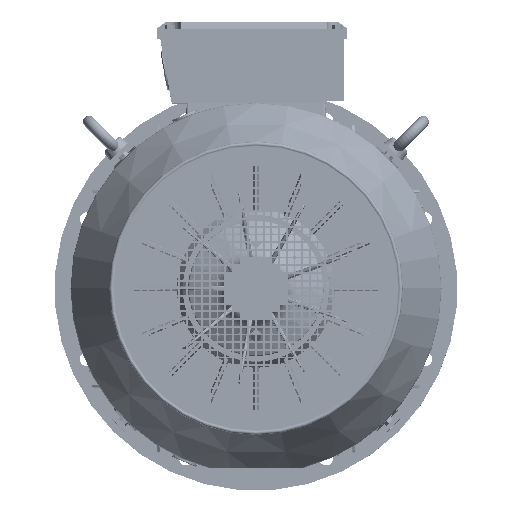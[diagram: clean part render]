
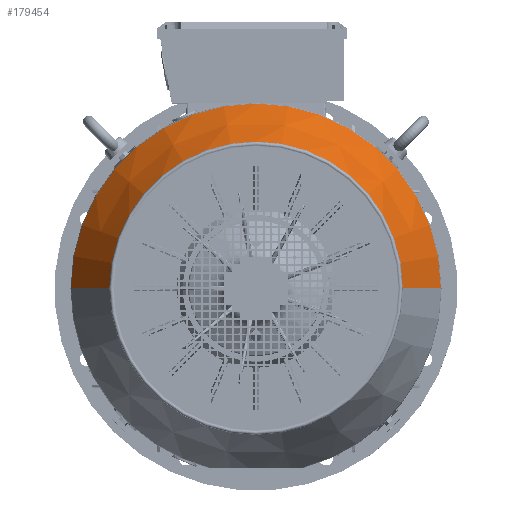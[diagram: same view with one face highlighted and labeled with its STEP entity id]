
A CAD part, top view. The second image highlights one B-rep face of the part: STEP entity #179454.
In plain terms, the highlighted conical face has half-angle 28.793 degrees and reference radius 200.371 mm.
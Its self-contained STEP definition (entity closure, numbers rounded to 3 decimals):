
#5270 = DIRECTION ( 'NONE',  ( -1., 0., 0. ) ) ;
#19321 = VERTEX_POINT ( 'NONE', #124887 ) ;
#29567 = CARTESIAN_POINT ( 'NONE',  ( 36.135, -6.231, 316.775 ) ) ;
#37813 = CONICAL_SURFACE ( 'NONE', #178723, 200.371, 0.503 ) ;
#49159 = AXIS2_PLACEMENT_3D ( 'NONE', #29567, #271436, #320999 ) ;
#54094 = CARTESIAN_POINT ( 'NONE',  ( 236.506, -6.231, 411.325 ) ) ;
#57042 = DIRECTION ( 'NONE',  ( -0.482, 0., -0.876 ) ) ;
#58671 = EDGE_CURVE ( 'NONE', #19321, #345013, #173112, .T. ) ;
#64183 = ORIENTED_EDGE ( 'NONE', *, *, #277393, .T. ) ;
#73514 = CARTESIAN_POINT ( 'NONE',  ( 36.135, -6.231, 411.325 ) ) ;
#101848 = LINE ( 'NONE', #54094, #266248 ) ;
#117979 = EDGE_LOOP ( 'NONE', ( #245967, #64183, #239947, #304067 ) ) ;
#124887 = CARTESIAN_POINT ( 'NONE',  ( -216.199, -6.231, 316.775 ) ) ;
#143464 = LINE ( 'NONE', #251161, #244087 ) ;
#152465 = CARTESIAN_POINT ( 'NONE',  ( 288.47, -6.231, 316.775 ) ) ;
#173112 = CIRCLE ( 'NONE', #49159, 252.335 ) ;
#178723 = AXIS2_PLACEMENT_3D ( 'NONE', #73514, #313683, #288913 ) ;
#179454 = ADVANCED_FACE ( 'NONE', ( #340174 ), #37813, .T. ) ;
#185951 = CARTESIAN_POINT ( 'NONE',  ( 36.135, -6.231, 411.325 ) ) ;
#195225 = EDGE_CURVE ( 'NONE', #288273, #19321, #143464, .T. ) ;
#203927 = AXIS2_PLACEMENT_3D ( 'NONE', #185951, #293698, #5270 ) ;
#239947 = ORIENTED_EDGE ( 'NONE', *, *, #58671, .F. ) ;
#244087 = VECTOR ( 'NONE', #57042, 1000. ) ;
#245967 = ORIENTED_EDGE ( 'NONE', *, *, #313151, .T. ) ;
#249183 = VERTEX_POINT ( 'NONE', #276309 ) ;
#251161 = CARTESIAN_POINT ( 'NONE',  ( -164.235, -6.231, 411.325 ) ) ;
#266248 = VECTOR ( 'NONE', #317255, 1000. ) ;
#267235 = CARTESIAN_POINT ( 'NONE',  ( -164.235, -6.231, 411.325 ) ) ;
#271436 = DIRECTION ( 'NONE',  ( 0., 0., -1. ) ) ;
#276309 = CARTESIAN_POINT ( 'NONE',  ( 236.506, -6.231, 411.325 ) ) ;
#277393 = EDGE_CURVE ( 'NONE', #249183, #345013, #101848, .T. ) ;
#288273 = VERTEX_POINT ( 'NONE', #267235 ) ;
#288913 = DIRECTION ( 'NONE',  ( -1., 0., 0. ) ) ;
#293698 = DIRECTION ( 'NONE',  ( 0., 0., -1. ) ) ;
#304067 = ORIENTED_EDGE ( 'NONE', *, *, #195225, .F. ) ;
#305567 = CIRCLE ( 'NONE', #203927, 200.371 ) ;
#313151 = EDGE_CURVE ( 'NONE', #288273, #249183, #305567, .T. ) ;
#313683 = DIRECTION ( 'NONE',  ( 0., 0., -1. ) ) ;
#317255 = DIRECTION ( 'NONE',  ( 0.482, 0., -0.876 ) ) ;
#320999 = DIRECTION ( 'NONE',  ( -1., 0., 0. ) ) ;
#340174 = FACE_OUTER_BOUND ( 'NONE', #117979, .T. ) ;
#345013 = VERTEX_POINT ( 'NONE', #152465 ) ;
